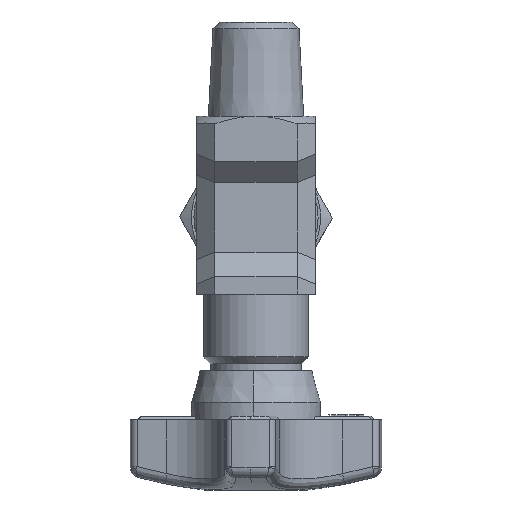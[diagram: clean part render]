
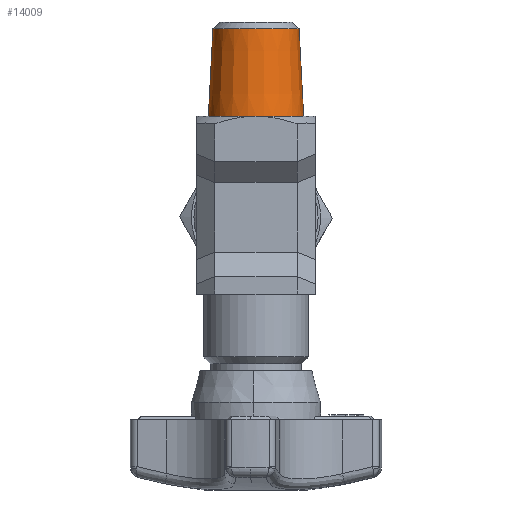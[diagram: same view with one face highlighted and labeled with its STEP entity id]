
A CAD part, front view. The second image highlights one B-rep face of the part: STEP entity #14009.
In plain terms, the highlighted conical face has half-angle 3 degrees and reference radius 6.83 mm.
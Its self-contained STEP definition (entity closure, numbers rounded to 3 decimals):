
#7402 = DIRECTION ( 'NONE',  ( -0.052, 0., -0.999 ) ) ;
#7403 = VECTOR ( 'NONE', #7402, 1000. ) ;
#7404 = CARTESIAN_POINT ( 'NONE',  ( -6.83, 0., 0. ) ) ;
#7405 = CARTESIAN_POINT ( 'NONE',  ( -6.83, 0., 0. ) ) ;
#7406 = LINE ( 'NONE', #7404, #7403 ) ;
#7414 = AXIS2_PLACEMENT_3D ( 'NONE', #7421, #7420, #7419 ) ;
#7415 = DIRECTION ( 'NONE',  ( 0.052, 0., -0.999 ) ) ;
#7416 = VECTOR ( 'NONE', #7415, 1000. ) ;
#7417 = CARTESIAN_POINT ( 'NONE',  ( 6.83, 0., 0. ) ) ;
#7418 = LINE ( 'NONE', #7417, #7416 ) ;
#7419 = DIRECTION ( 'NONE',  ( 1., 0., 0. ) ) ;
#7420 = DIRECTION ( 'NONE',  ( 0., 0., 1. ) ) ;
#7421 = CARTESIAN_POINT ( 'NONE',  ( 0., 0., 0. ) ) ;
#7423 = CIRCLE ( 'NONE', #7414, 6.83 ) ;
#7424 = CARTESIAN_POINT ( 'NONE',  ( 6.83, 0., 0. ) ) ;
#7462 = CARTESIAN_POINT ( 'NONE',  ( -6.175, 0., 12.501 ) ) ;
#7468 = DIRECTION ( 'NONE',  ( 1., 0., 0. ) ) ;
#7469 = DIRECTION ( 'NONE',  ( 0., 0., -1. ) ) ;
#7470 = CARTESIAN_POINT ( 'NONE',  ( 0., 0., 0. ) ) ;
#7471 = AXIS2_PLACEMENT_3D ( 'NONE', #7470, #7469, #7468 ) ;
#7472 = CONICAL_SURFACE ( 'NONE', #7471, 6.83, 0.052 ) ;
#7473 = FACE_OUTER_BOUND ( 'NONE', #14010, .T. ) ;
#7490 = CARTESIAN_POINT ( 'NONE',  ( 6.175, 0., 12.501 ) ) ;
#10118 = DIRECTION ( 'NONE',  ( -1., 0., 0. ) ) ;
#12614 = CARTESIAN_POINT ( 'NONE',  ( 0., 0., 12.501 ) ) ;
#12615 = DIRECTION ( 'NONE',  ( 0., 0., -1. ) ) ;
#12616 = AXIS2_PLACEMENT_3D ( 'NONE', #12614, #12615, #10118 ) ;
#12617 = CIRCLE ( 'NONE', #12616, 6.175 ) ;
#14003 = VERTEX_POINT ( 'NONE', #7490 ) ;
#14006 = VERTEX_POINT ( 'NONE', #7462 ) ;
#14009 = ADVANCED_FACE ( 'NONE', ( #7473 ), #7472, .T. ) ;
#14010 = EDGE_LOOP ( 'NONE', ( #14011, #14028, #14031, #14034 ) ) ;
#14011 = ORIENTED_EDGE ( 'NONE', *, *, #14027, .T. ) ;
#14027 = EDGE_CURVE ( 'NONE', #14003, #14006, #12617, .T. ) ;
#14028 = ORIENTED_EDGE ( 'NONE', *, *, #14029, .T. ) ;
#14029 = EDGE_CURVE ( 'NONE', #14006, #14030, #7406, .T. ) ;
#14030 = VERTEX_POINT ( 'NONE', #7405 ) ;
#14031 = ORIENTED_EDGE ( 'NONE', *, *, #14032, .T. ) ;
#14032 = EDGE_CURVE ( 'NONE', #14030, #14033, #7423, .T. ) ;
#14033 = VERTEX_POINT ( 'NONE', #7424 ) ;
#14034 = ORIENTED_EDGE ( 'NONE', *, *, #14035, .F. ) ;
#14035 = EDGE_CURVE ( 'NONE', #14003, #14033, #7418, .T. ) ;
